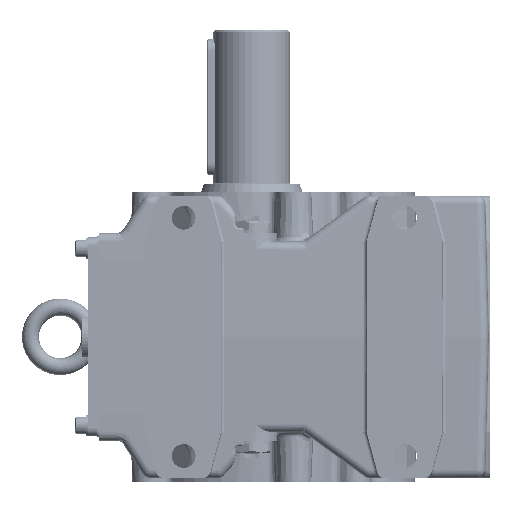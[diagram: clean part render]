
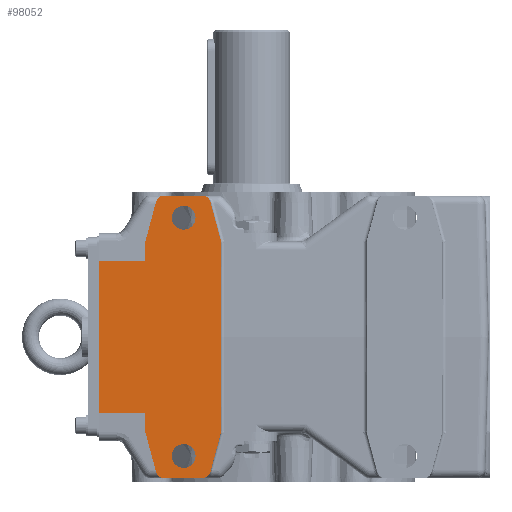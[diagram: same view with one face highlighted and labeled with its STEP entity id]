
A CAD part, left-side view. The second image highlights one B-rep face of the part: STEP entity #98052.
In plain terms, the highlighted planar face has unit normal (-1, 0, 0).
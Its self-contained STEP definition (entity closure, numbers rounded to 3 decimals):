
#54645=CARTESIAN_POINT('',(-90.,24.256,-79.297));
#54646=VERTEX_POINT('',#54645);
#54647=CARTESIAN_POINT('',(-90.,29.085,-83.));
#54648=VERTEX_POINT('',#54647);
#54649=CARTESIAN_POINT('',(-90.,29.085,-78.));
#54650=DIRECTION('',(1.0,0.0,0.0));
#54651=DIRECTION('',(0.0,-0.609,-0.794));
#54652=AXIS2_PLACEMENT_3D('',#54649,#54650,#54651);
#54653=CIRCLE('',#54652,5.0);
#54654=EDGE_CURVE('',#54646,#54648,#54653,.T.);
#54685=CARTESIAN_POINT('',(-90.,51.415,-83.));
#54686=VERTEX_POINT('',#54685);
#54687=CARTESIAN_POINT('',(-90.,29.085,-83.));
#54688=DIRECTION('',(0.0,1.0,0.0));
#54689=VECTOR('',#54688,22.331);
#54690=LINE('',#54687,#54689);
#54691=EDGE_CURVE('',#54648,#54686,#54690,.T.);
#55356=CARTESIAN_POINT('',(-90.,18.171,-56.637));
#55357=VERTEX_POINT('',#55356);
#55358=CARTESIAN_POINT('',(-90.0,18.171,-56.637));
#55359=DIRECTION('',(0.0,0.259,-0.966));
#55360=VECTOR('',#55359,23.462);
#55361=LINE('',#55358,#55360);
#55362=EDGE_CURVE('',#55357,#54646,#55361,.T.);
#55396=CARTESIAN_POINT('',(-90.,18.,-55.34));
#55397=VERTEX_POINT('',#55396);
#55398=CARTESIAN_POINT('',(-90.,23.,-55.34));
#55399=DIRECTION('',(1.0,0.0,0.0));
#55400=DIRECTION('',(0.0,-0.991,-0.131));
#55401=AXIS2_PLACEMENT_3D('',#55398,#55399,#55400);
#55402=CIRCLE('',#55401,5.0);
#55403=EDGE_CURVE('',#55397,#55357,#55402,.T.);
#55429=CARTESIAN_POINT('',(-90.,18.,-17.838));
#55430=VERTEX_POINT('',#55429);
#55431=CARTESIAN_POINT('',(-90.0,18.,-17.838));
#55432=DIRECTION('',(0.0,0.0,-1.0));
#55433=VECTOR('',#55432,37.503);
#55434=LINE('',#55431,#55433);
#55435=EDGE_CURVE('',#55430,#55397,#55434,.T.);
#55452=CARTESIAN_POINT('',(-90.,18.171,56.637));
#55453=VERTEX_POINT('',#55452);
#55454=CARTESIAN_POINT('',(-90.,18.,55.34));
#55455=VERTEX_POINT('',#55454);
#55456=CARTESIAN_POINT('',(-90.,23.,55.34));
#55457=DIRECTION('',(1.0,0.0,0.0));
#55458=DIRECTION('',(0.0,-0.991,0.131));
#55459=AXIS2_PLACEMENT_3D('',#55456,#55457,#55458);
#55460=CIRCLE('',#55459,5.0);
#55461=EDGE_CURVE('',#55453,#55455,#55460,.T.);
#59291=CARTESIAN_POINT('',(-90.,24.256,79.297));
#59292=VERTEX_POINT('',#59291);
#59293=CARTESIAN_POINT('',(-90.0,24.256,79.297));
#59294=DIRECTION('',(0.0,-0.259,-0.966));
#59295=VECTOR('',#59294,23.462);
#59296=LINE('',#59293,#59295);
#59297=EDGE_CURVE('',#59292,#55453,#59296,.T.);
#59524=CARTESIAN_POINT('',(-90.,17.945,0.));
#59525=VERTEX_POINT('',#59524);
#59526=CARTESIAN_POINT('',(-90.,16.,-17.838));
#59527=DIRECTION('',(-1.0,0.0,0.0));
#59528=DIRECTION('',(0.0,0.0,1.0));
#59529=AXIS2_PLACEMENT_3D('',#59526,#59527,#59528);
#59530=ELLIPSE('',#59529,76.403,2.0);
#59531=EDGE_CURVE('',#59525,#55430,#59530,.T.);
#59659=CARTESIAN_POINT('',(-90.,18.,17.838));
#59660=VERTEX_POINT('',#59659);
#59661=CARTESIAN_POINT('',(-90.,16.,17.838));
#59662=DIRECTION('',(-1.0,0.0,0.0));
#59663=DIRECTION('',(0.0,0.0,-1.0));
#59664=AXIS2_PLACEMENT_3D('',#59661,#59662,#59663);
#59665=ELLIPSE('',#59664,76.403,2.0);
#59666=EDGE_CURVE('',#59660,#59525,#59665,.T.);
#79696=CARTESIAN_POINT('',(-90.,56.244,-79.297));
#79697=VERTEX_POINT('',#79696);
#79698=CARTESIAN_POINT('',(-90.,62.329,-56.637));
#79699=VERTEX_POINT('',#79698);
#79700=CARTESIAN_POINT('',(-90.,56.244,-79.297));
#79701=DIRECTION('',(0.0,0.259,0.966));
#79702=VECTOR('',#79701,23.462);
#79703=LINE('',#79700,#79702);
#79704=EDGE_CURVE('',#79697,#79699,#79703,.T.);
#79735=CARTESIAN_POINT('',(-90.,51.415,-78.));
#79736=DIRECTION('',(1.0,0.0,0.0));
#79737=DIRECTION('',(0.0,0.609,-0.794));
#79738=AXIS2_PLACEMENT_3D('',#79735,#79736,#79737);
#79739=CIRCLE('',#79738,5.);
#79740=EDGE_CURVE('',#54686,#79697,#79739,.T.);
#97363=CARTESIAN_POINT('',(-90.,29.085,83.));
#97364=VERTEX_POINT('',#97363);
#97365=CARTESIAN_POINT('',(-90.,29.085,78.));
#97366=DIRECTION('',(1.0,0.0,0.0));
#97367=DIRECTION('',(0.0,-0.609,0.794));
#97368=AXIS2_PLACEMENT_3D('',#97365,#97366,#97367);
#97369=CIRCLE('',#97368,5.0);
#97370=EDGE_CURVE('',#97364,#59292,#97369,.T.);
#97388=CARTESIAN_POINT('',(-90.,51.415,83.));
#97389=VERTEX_POINT('',#97388);
#97390=CARTESIAN_POINT('',(-90.,51.415,83.));
#97391=DIRECTION('',(0.0,-1.0,0.0));
#97392=VECTOR('',#97391,22.331);
#97393=LINE('',#97390,#97392);
#97394=EDGE_CURVE('',#97389,#97364,#97393,.T.);
#97416=CARTESIAN_POINT('',(-90.0,18.,55.34));
#97417=DIRECTION('',(0.0,0.0,-1.0));
#97418=VECTOR('',#97417,37.503);
#97419=LINE('',#97416,#97418);
#97420=EDGE_CURVE('',#55455,#59660,#97419,.T.);
#97432=CARTESIAN_POINT('',(-90.,56.244,79.297));
#97433=VERTEX_POINT('',#97432);
#97434=CARTESIAN_POINT('',(-90.,51.415,78.));
#97435=DIRECTION('',(1.0,0.0,0.0));
#97436=DIRECTION('',(0.0,0.609,0.794));
#97437=AXIS2_PLACEMENT_3D('',#97434,#97435,#97436);
#97438=CIRCLE('',#97437,5.);
#97439=EDGE_CURVE('',#97433,#97389,#97438,.T.);
#97457=CARTESIAN_POINT('',(-90.,62.329,56.637));
#97458=VERTEX_POINT('',#97457);
#97459=CARTESIAN_POINT('',(-90.,62.329,56.637));
#97460=DIRECTION('',(0.0,-0.259,0.966));
#97461=VECTOR('',#97460,23.462);
#97462=LINE('',#97459,#97461);
#97463=EDGE_CURVE('',#97458,#97433,#97462,.T.);
#97489=CARTESIAN_POINT('',(-90.,62.5,55.34));
#97490=VERTEX_POINT('',#97489);
#97491=CARTESIAN_POINT('',(-90.,57.5,55.34));
#97492=DIRECTION('',(1.0,0.0,0.0));
#97493=DIRECTION('',(0.0,0.991,0.131));
#97494=AXIS2_PLACEMENT_3D('',#97491,#97492,#97493);
#97495=CIRCLE('',#97494,5.0);
#97496=EDGE_CURVE('',#97490,#97458,#97495,.T.);
#97522=CARTESIAN_POINT('',(-90.,62.5,-55.34));
#97523=VERTEX_POINT('',#97522);
#97524=CARTESIAN_POINT('',(-90.,62.5,-44.812));
#97525=VERTEX_POINT('',#97524);
#97526=CARTESIAN_POINT('',(-90.,62.5,-55.34));
#97527=DIRECTION('',(0.0,0.0,1.0));
#97528=VECTOR('',#97527,10.529);
#97529=LINE('',#97526,#97528);
#97530=EDGE_CURVE('',#97523,#97525,#97529,.T.);
#97554=CARTESIAN_POINT('',(-90.,62.5,44.812));
#97555=VERTEX_POINT('',#97554);
#97556=CARTESIAN_POINT('',(-90.,62.5,44.812));
#97557=DIRECTION('',(0.0,0.0,1.0));
#97558=VECTOR('',#97557,10.529);
#97559=LINE('',#97556,#97558);
#97560=EDGE_CURVE('',#97555,#97490,#97559,.T.);
#97577=CARTESIAN_POINT('',(-90.0,90.0,44.812));
#97578=VERTEX_POINT('',#97577);
#97585=CARTESIAN_POINT('',(-90.0,90.0,44.812));
#97586=DIRECTION('',(0.0,-1.0,0.0));
#97587=VECTOR('',#97586,27.5);
#97588=LINE('',#97585,#97587);
#97589=EDGE_CURVE('',#97578,#97555,#97588,.T.);
#97606=CARTESIAN_POINT('',(-90.0,90.0,-44.812));
#97607=VERTEX_POINT('',#97606);
#97634=CARTESIAN_POINT('',(-90.0,62.5,-44.812));
#97635=DIRECTION('',(0.0,1.0,0.0));
#97636=VECTOR('',#97635,27.5);
#97637=LINE('',#97634,#97636);
#97638=EDGE_CURVE('',#97525,#97607,#97637,.T.);
#97648=CARTESIAN_POINT('',(-90.,57.5,-55.34));
#97649=DIRECTION('',(1.0,0.0,0.0));
#97650=DIRECTION('',(0.0,0.991,-0.131));
#97651=AXIS2_PLACEMENT_3D('',#97648,#97649,#97650);
#97652=CIRCLE('',#97651,5.);
#97653=EDGE_CURVE('',#79699,#97523,#97652,.T.);
#97995=CARTESIAN_POINT('',(-90.,-15.242,0.735));
#97996=DIRECTION('',(1.0,0.0,0.0));
#97997=DIRECTION('',(0.0,0.0,-1.0));
#97998=AXIS2_PLACEMENT_3D('',#97995,#97996,#97997);
#97999=PLANE('',#97998);
#98000=CARTESIAN_POINT('',(-90.,90.0,44.812));
#98001=DIRECTION('',(0.0,0.0,-1.0));
#98002=VECTOR('',#98001,89.623);
#98003=LINE('',#98000,#98002);
#98004=EDGE_CURVE('',#97578,#97607,#98003,.T.);
#98005=ORIENTED_EDGE('',*,*,#98004,.T.);
#98006=ORIENTED_EDGE('',*,*,#97638,.F.);
#98007=ORIENTED_EDGE('',*,*,#97530,.F.);
#98008=ORIENTED_EDGE('',*,*,#97653,.F.);
#98009=ORIENTED_EDGE('',*,*,#79704,.F.);
#98010=ORIENTED_EDGE('',*,*,#79740,.F.);
#98011=ORIENTED_EDGE('',*,*,#54691,.F.);
#98012=ORIENTED_EDGE('',*,*,#54654,.F.);
#98013=ORIENTED_EDGE('',*,*,#55362,.F.);
#98014=ORIENTED_EDGE('',*,*,#55403,.F.);
#98015=ORIENTED_EDGE('',*,*,#55435,.F.);
#98016=ORIENTED_EDGE('',*,*,#59531,.F.);
#98017=ORIENTED_EDGE('',*,*,#59666,.F.);
#98018=ORIENTED_EDGE('',*,*,#97420,.F.);
#98019=ORIENTED_EDGE('',*,*,#55461,.F.);
#98020=ORIENTED_EDGE('',*,*,#59297,.F.);
#98021=ORIENTED_EDGE('',*,*,#97370,.F.);
#98022=ORIENTED_EDGE('',*,*,#97394,.F.);
#98023=ORIENTED_EDGE('',*,*,#97439,.F.);
#98024=ORIENTED_EDGE('',*,*,#97463,.F.);
#98025=ORIENTED_EDGE('',*,*,#97496,.F.);
#98026=ORIENTED_EDGE('',*,*,#97560,.F.);
#98027=ORIENTED_EDGE('',*,*,#97589,.F.);
#98028=EDGE_LOOP('',(#98005,#98006,#98007,#98008,#98009,#98010,#98011,#98012,#98013,#98014,#98015,#98016,#98017,#98018,#98019,#98020,#98021,#98022,#98023,#98024,#98025,#98026,#98027));
#98029=FACE_OUTER_BOUND('',#98028,.T.);
#98030=CARTESIAN_POINT('',(-90.,40.0,-63.0));
#98031=VERTEX_POINT('',#98030);
#98032=CARTESIAN_POINT('',(-90.,40.0,-70.0));
#98033=DIRECTION('',(1.0,0.0,0.0));
#98034=DIRECTION('',(0.0,0.0,1.0));
#98035=AXIS2_PLACEMENT_3D('',#98032,#98033,#98034);
#98036=CIRCLE('',#98035,7.);
#98037=EDGE_CURVE('',#98031,#98031,#98036,.T.);
#98038=ORIENTED_EDGE('',*,*,#98037,.T.);
#98039=EDGE_LOOP('',(#98038));
#98040=FACE_BOUND('',#98039,.T.);
#98041=CARTESIAN_POINT('',(-90.,40.0,77.0));
#98042=VERTEX_POINT('',#98041);
#98043=CARTESIAN_POINT('',(-90.,40.0,70.0));
#98044=DIRECTION('',(1.0,0.0,0.0));
#98045=DIRECTION('',(0.0,0.0,1.0));
#98046=AXIS2_PLACEMENT_3D('',#98043,#98044,#98045);
#98047=CIRCLE('',#98046,7.);
#98048=EDGE_CURVE('',#98042,#98042,#98047,.T.);
#98049=ORIENTED_EDGE('',*,*,#98048,.T.);
#98050=EDGE_LOOP('',(#98049));
#98051=FACE_BOUND('',#98050,.T.);
#98052=ADVANCED_FACE('',(#98029,#98040,#98051),#97999,.F.);
